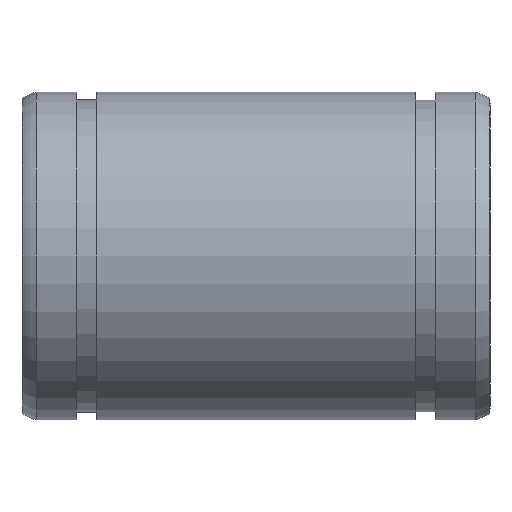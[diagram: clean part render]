
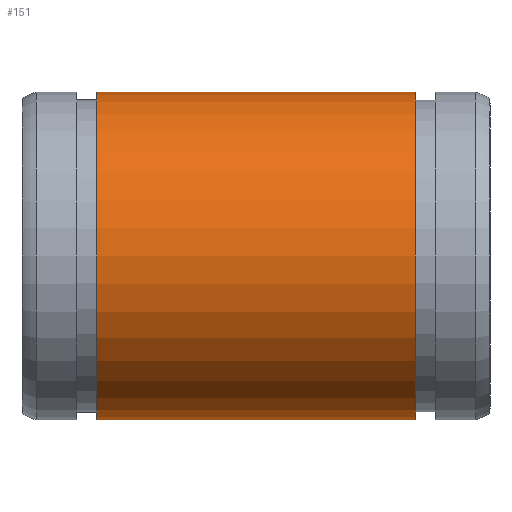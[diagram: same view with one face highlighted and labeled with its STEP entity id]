
A CAD part, front view. The second image highlights one B-rep face of the part: STEP entity #151.
In plain terms, the highlighted cylindrical face has radius 10.5 mm (diameter 21 mm), a full revolution.
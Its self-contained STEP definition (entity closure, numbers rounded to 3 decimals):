
#117=CARTESIAN_POINT('',(25.2,0.0,10.5));
#118=VERTEX_POINT('',#117);
#119=CARTESIAN_POINT('',(25.2,0.0,0.));
#120=DIRECTION('',(-1.0,0.0,0.0));
#121=DIRECTION('',(0.0,0.0,1.0));
#122=AXIS2_PLACEMENT_3D('',#119,#120,#121);
#123=CIRCLE('',#122,10.5);
#124=EDGE_CURVE('',#118,#118,#123,.T.);
#132=CARTESIAN_POINT('',(15.,0.0,0.));
#133=DIRECTION('',(-1.0,0.0,0.0));
#134=DIRECTION('',(0.0,0.0,1.0));
#135=AXIS2_PLACEMENT_3D('',#132,#133,#134);
#136=CYLINDRICAL_SURFACE('',#135,10.5);
#137=CARTESIAN_POINT('',(4.8,0.0,10.5));
#138=VERTEX_POINT('',#137);
#139=CARTESIAN_POINT('',(4.8,0.0,0.));
#140=DIRECTION('',(-1.0,0.0,0.0));
#141=DIRECTION('',(0.0,0.0,1.0));
#142=AXIS2_PLACEMENT_3D('',#139,#140,#141);
#143=CIRCLE('',#142,10.5);
#144=EDGE_CURVE('',#138,#138,#143,.T.);
#145=ORIENTED_EDGE('',*,*,#144,.F.);
#146=EDGE_LOOP('',(#145));
#147=FACE_OUTER_BOUND('',#146,.T.);
#148=ORIENTED_EDGE('',*,*,#124,.T.);
#149=EDGE_LOOP('',(#148));
#150=FACE_BOUND('',#149,.T.);
#151=ADVANCED_FACE('',(#147,#150),#136,.T.);
